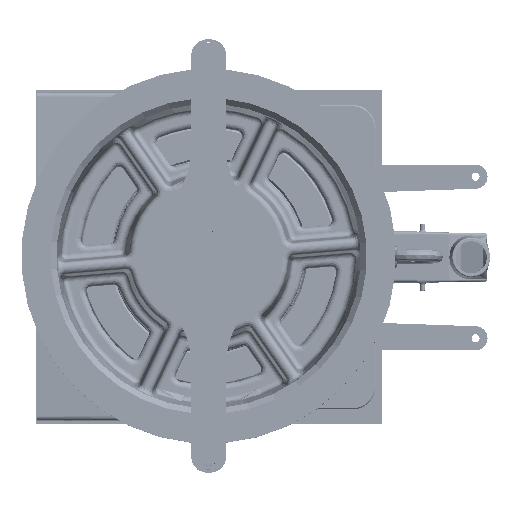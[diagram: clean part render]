
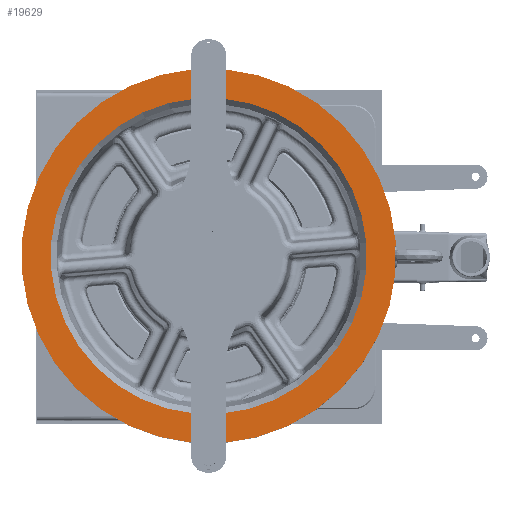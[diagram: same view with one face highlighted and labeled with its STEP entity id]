
A CAD part, top view. The second image highlights one B-rep face of the part: STEP entity #19629.
In plain terms, the highlighted planar face has unit normal (0, 0, 1).
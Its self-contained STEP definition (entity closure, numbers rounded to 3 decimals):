
#14821 = CIRCLE ( 'NONE', #175198, 135. ) ;
#15214 = ORIENTED_EDGE ( 'NONE', *, *, #182931, .T. ) ;
#18143 = FACE_OUTER_BOUND ( 'NONE', #197766, .T. ) ;
#19629 = ADVANCED_FACE ( 'NONE', ( #155684, #18143 ), #157665, .T. ) ;
#30764 = DIRECTION ( 'NONE',  ( -0.083, 0.997, 0. ) ) ;
#34335 = DIRECTION ( 'NONE',  ( 0., 0., -1. ) ) ;
#34480 = ORIENTED_EDGE ( 'NONE', *, *, #156905, .F. ) ;
#35364 = CARTESIAN_POINT ( 'NONE',  ( -33.542, 140.241, 358.724 ) ) ;
#49392 = CARTESIAN_POINT ( 'NONE',  ( -22.337, 5.707, 358.724 ) ) ;
#60806 = DIRECTION ( 'NONE',  ( 0., 0., -1. ) ) ;
#74861 = CARTESIAN_POINT ( 'NONE',  ( -22.337, 5.707, 358.724 ) ) ;
#77093 = DIRECTION ( 'NONE',  ( -0.083, 0.997, 0. ) ) ;
#81072 = EDGE_CURVE ( 'NONE', #169265, #104704, #99038, .T. ) ;
#83274 = DIRECTION ( 'NONE',  ( 0., 0., -1. ) ) ;
#84292 = CARTESIAN_POINT ( 'NONE',  ( -22.337, 5.707, 358.724 ) ) ;
#90760 = VERTEX_POINT ( 'NONE', #35364 ) ;
#99038 = CIRCLE ( 'NONE', #140762, 160. ) ;
#99964 = CARTESIAN_POINT ( 'NONE',  ( -11.132, -128.827, 358.724 ) ) ;
#104704 = VERTEX_POINT ( 'NONE', #153845 ) ;
#106242 = AXIS2_PLACEMENT_3D ( 'NONE', #143584, #127492, #112465 ) ;
#112465 = DIRECTION ( 'NONE',  ( 0.083, -0.997, 0. ) ) ;
#118768 = EDGE_LOOP ( 'NONE', ( #15214, #154549 ) ) ;
#127492 = DIRECTION ( 'NONE',  ( 0., 0., 1. ) ) ;
#127922 = CIRCLE ( 'NONE', #144012, 135. ) ;
#130473 = DIRECTION ( 'NONE',  ( -0.083, 0.997, 0. ) ) ;
#137386 = CARTESIAN_POINT ( 'NONE',  ( -22.337, 5.707, 358.724 ) ) ;
#140762 = AXIS2_PLACEMENT_3D ( 'NONE', #137386, #171498, #77093 ) ;
#143584 = CARTESIAN_POINT ( 'NONE',  ( 112.197, 16.912, 358.724 ) ) ;
#144012 = AXIS2_PLACEMENT_3D ( 'NONE', #74861, #60806, #30764 ) ;
#149662 = AXIS2_PLACEMENT_3D ( 'NONE', #49392, #34335, #174834 ) ;
#153845 = CARTESIAN_POINT ( 'NONE',  ( -9.057, -153.741, 358.724 ) ) ;
#154549 = ORIENTED_EDGE ( 'NONE', *, *, #175142, .T. ) ;
#155684 = FACE_BOUND ( 'NONE', #118768, .T. ) ;
#156905 = EDGE_CURVE ( 'NONE', #104704, #169265, #178602, .T. ) ;
#157665 = PLANE ( 'NONE',  #106242 ) ;
#158340 = CARTESIAN_POINT ( 'NONE',  ( -35.617, 165.155, 358.724 ) ) ;
#158719 = VERTEX_POINT ( 'NONE', #99964 ) ;
#169265 = VERTEX_POINT ( 'NONE', #158340 ) ;
#171498 = DIRECTION ( 'NONE',  ( 0., 0., -1. ) ) ;
#174834 = DIRECTION ( 'NONE',  ( -0.083, 0.997, 0. ) ) ;
#175142 = EDGE_CURVE ( 'NONE', #90760, #158719, #127922, .T. ) ;
#175198 = AXIS2_PLACEMENT_3D ( 'NONE', #84292, #83274, #130473 ) ;
#178602 = CIRCLE ( 'NONE', #149662, 160. ) ;
#182931 = EDGE_CURVE ( 'NONE', #158719, #90760, #14821, .T. ) ;
#188268 = ORIENTED_EDGE ( 'NONE', *, *, #81072, .F. ) ;
#197766 = EDGE_LOOP ( 'NONE', ( #188268, #34480 ) ) ;
